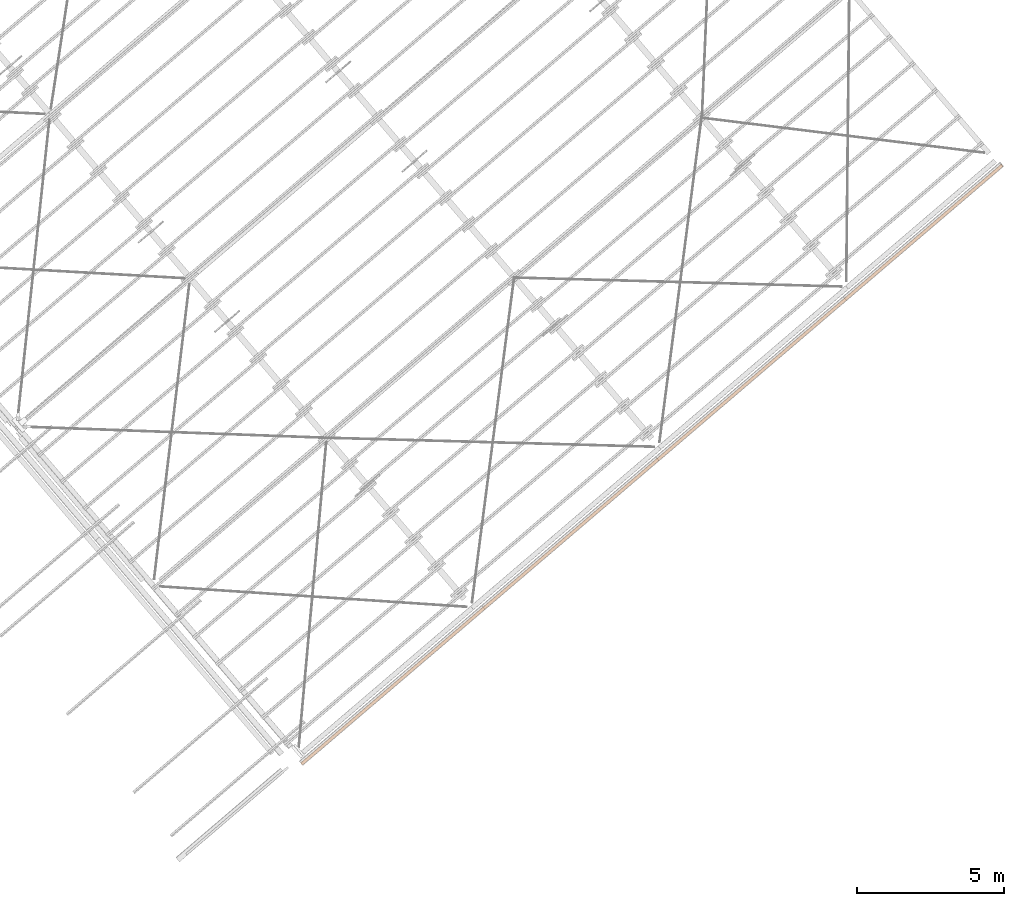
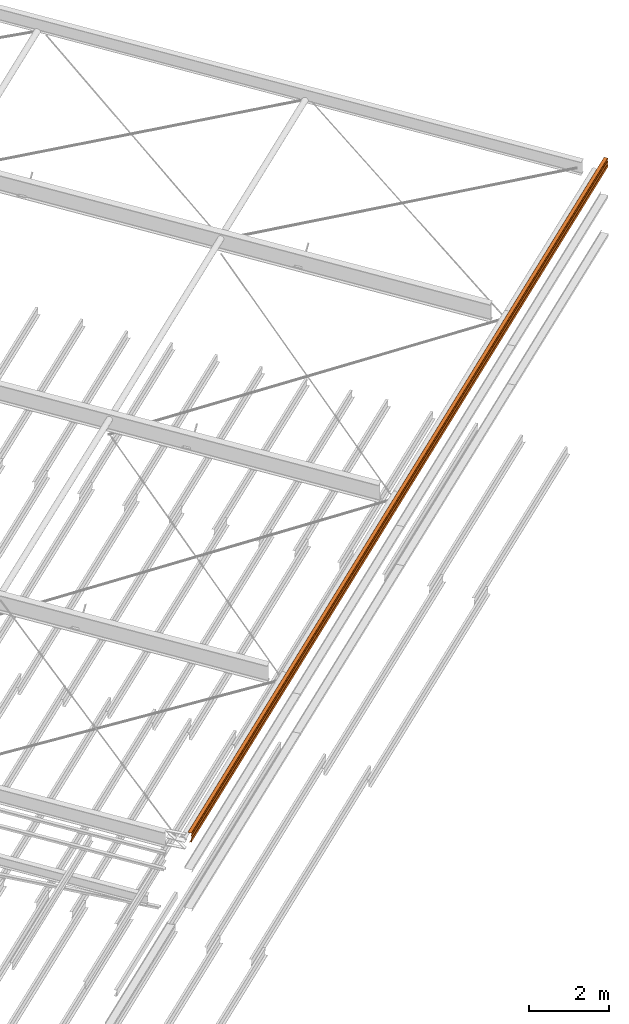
# One storey, part 25 of 25: 1 proxy.
"""IFC2X3 building model written with IfcOpenShell, lengths in millimetres."""

import ifcopenshell
import ifcopenshell.guid

model = None  # the IFC model being written
_history = None  # IfcOwnerHistory: only IFC2X3 demands one
_inside = {}  # id of a spatial element -> (the spatial element, [elements in it])
_under = {}  # id of a project, library or spatial element -> (it, [spatial elements below it])
_declared = {}  # id of a project -> (the project, [libraries it declares])
_typed = {}  # id of a type object -> (the type object, [elements of that type])
_made_of = {}  # id of a material, layer set ... -> (it, [elements and type objects made of it])


def new_model(schema):
    """Start an empty IFC model of exactly this schema.

    Asked for "IFC4X3", IfcOpenShell would pick the latest addendum, in which some entities
    have other attributes; the version numbers below select the first issue.
    IFC2X3 requires an IfcOwnerHistory on every rooted entity: one is made here for all.
    """
    global model, _history
    if schema == "IFC4X3":
        model = ifcopenshell.file(schema_version=(4, 3, 0, 0))
    else:
        model = ifcopenshell.file(schema=schema)
    _inside.clear()
    _under.clear()
    _declared.clear()
    _typed.clear()
    _made_of.clear()
    _history = None
    if model.schema == "IFC2X3":
        org = make("IfcOrganization", Name="unknown")
        user = make(
            "IfcPersonAndOrganization",
            ThePerson=make("IfcPerson", FamilyName="unknown"),
            TheOrganization=org,
        )
        app = make(
            "IfcApplication",
            ApplicationDeveloper=org,
            Version="unknown",
            ApplicationFullName="unknown",
            ApplicationIdentifier="unknown",
        )
        _history = make(
            "IfcOwnerHistory",
            OwningUser=user,
            OwningApplication=app,
            ChangeAction="ADDED",
            CreationDate=0,
        )
    return model


def make(cls, **values):
    """One entity of the class cls with the attributes given. An attribute that is None is left unset."""
    return model.create_entity(
        cls, **{name: value for name, value in values.items() if value is not None}
    )


def entity(cls, *values):
    """Any entity or typed value of the class cls, its attributes in the order of the schema. None: left unset."""
    e = model.create_entity(cls)
    for i, value in enumerate(values):
        if value is not None:
            e[i] = value
    return e


def rooted(cls, **values):
    """An entity with a GlobalId (a new one), such as an element, a storey or a relation."""
    return make(cls, GlobalId=ifcopenshell.guid.new(), OwnerHistory=_history, **values)


def si_unit(unit_type, name, prefix=None):
    """IfcSIUnit, for example si_unit("LENGTHUNIT", "METRE", prefix="MILLI")."""
    return make("IfcSIUnit", UnitType=unit_type, Prefix=prefix, Name=name)


def converted_unit(unit_type, name, factor, base, dimensions=None, offset=None):
    """IfcConversionBasedUnit, such as the inch: factor (a typed value) times the base unit."""
    return make(
        "IfcConversionBasedUnit"
        if offset is None
        else "IfcConversionBasedUnitWithOffset",
        ConversionOffset=offset,
        Dimensions=None
        if dimensions is None
        else entity("IfcDimensionalExponents", *dimensions),
        UnitType=unit_type,
        Name=name,
        ConversionFactor=make(
            "IfcMeasureWithUnit", ValueComponent=factor, UnitComponent=base
        ),
    )


def derived_unit(unit_type, elements):
    """IfcDerivedUnit: a product of units, each with its exponent."""
    return make(
        "IfcDerivedUnit",
        Elements=[
            make("IfcDerivedUnitElement", Unit=unit, Exponent=power)
            for unit, power in elements
        ],
        UnitType=unit_type,
    )


def assignment(units):
    """IfcUnitAssignment: the units of a project."""
    return None if units is None else make("IfcUnitAssignment", Units=units)


def point(xyz):
    """IfcCartesianPoint."""
    return None if xyz is None else make("IfcCartesianPoint", Coordinates=xyz)


def direction(xyz):
    """IfcDirection."""
    return None if xyz is None else make("IfcDirection", DirectionRatios=xyz)


def frame(location, z_axis=None, x_axis=None):
    """IfcAxis2Placement3D, a coordinate frame: its origin and axes. An axis left out is left unset."""
    return make(
        "IfcAxis2Placement3D",
        Location=point(location),
        Axis=direction(z_axis),
        RefDirection=direction(x_axis),
    )


def frame_2d(location, x_axis=None):
    """IfcAxis2Placement2D, a coordinate frame in the plane: its origin and x axis."""
    return make(
        "IfcAxis2Placement2D", Location=point(location), RefDirection=direction(x_axis)
    )


def origin():
    """The frame at (0, 0, 0) with its axes left unset."""
    return frame((0.0, 0.0, 0.0))


def place(relative_to, where):
    """IfcLocalPlacement: puts the frame where relative to a parent placement (None: the world)."""
    return make(
        "IfcLocalPlacement", PlacementRelTo=relative_to, RelativePlacement=where
    )


def context(
    kind, dimensions, precision=None, world=None, true_north=None, identifier=None
):
    """IfcGeometricRepresentationContext, for example the 3D "Model" context."""
    return make(
        "IfcGeometricRepresentationContext",
        ContextIdentifier=identifier,
        ContextType=kind,
        CoordinateSpaceDimension=dimensions,
        Precision=precision,
        WorldCoordinateSystem=world,
        TrueNorth=true_north,
    )


def subcontext(parent, identifier, kind, view, scale=None):
    """IfcGeometricRepresentationSubContext, for example "Body" below "Model"."""
    return make(
        "IfcGeometricRepresentationSubContext",
        ContextIdentifier=identifier,
        ContextType=kind,
        ParentContext=parent,
        TargetScale=scale,
        TargetView=view,
    )


def project(units=None, contexts=None):
    """IfcProject with its units and contexts."""
    return rooted(
        "IfcProject",
        Name="project",
        RepresentationContexts=contexts,
        UnitsInContext=assignment(units),
    )


def spatial(cls, under=None, at=None, **own):
    """A site, building, storey or space (cls), placed at a placement, below another one or the project."""
    s = rooted(cls, ObjectPlacement=at, **own)
    if under is not None:
        _under.setdefault(under.id(), (under, []))[1].append(s)
    return s


def polyline(points):
    """IfcPolyline through the points."""
    return make("IfcPolyline", Points=[point(p) for p in points])


def circle_curve(where, radius):
    """IfcCircle in the frame where."""
    return make("IfcCircle", Position=where, Radius=radius)


def parameter(value):
    """IfcParameterValue: where a trimmed curve begins or ends, as a parameter of its basis curve."""
    return model.create_entity("IfcParameterValue", value)


def trimmed(basis, trim1, trim2, sense, master):
    """IfcTrimmedCurve: the piece of a basis curve between two trims."""
    return make(
        "IfcTrimmedCurve",
        BasisCurve=basis,
        Trim1=trim1,
        Trim2=trim2,
        SenseAgreement=sense,
        MasterRepresentation=master,
    )


def segment(curve, same_sense, transition):
    """IfcCompositeCurveSegment."""
    return make(
        "IfcCompositeCurveSegment",
        Transition=transition,
        SameSense=same_sense,
        ParentCurve=curve,
    )


def composite_curve(segments, self_intersect=None):
    """IfcCompositeCurve: segments joined end to end."""
    return make("IfcCompositeCurve", Segments=segments, SelfIntersect=self_intersect)


def outline(outer, holes=None, kind="AREA"):
    """IfcArbitraryClosedProfileDef: a profile drawn as a closed curve; with holes, ...WithVoids."""
    if holes is None:
        return make("IfcArbitraryClosedProfileDef", ProfileType=kind, OuterCurve=outer)
    return make(
        "IfcArbitraryProfileDefWithVoids",
        ProfileType=kind,
        OuterCurve=outer,
        InnerCurves=holes,
    )


def extrude(swept, where, along, depth):
    """IfcExtrudedAreaSolid: the profile swept, set in the frame where, extruded along a direction by depth."""
    return make(
        "IfcExtrudedAreaSolid",
        SweptArea=swept,
        Position=where,
        ExtrudedDirection=direction(along),
        Depth=depth,
    )


def shape(context_of_items, identifier, shape_type, items):
    """IfcShapeRepresentation: the items that make up one representation, for example the "Body"."""
    return make(
        "IfcShapeRepresentation",
        ContextOfItems=context_of_items,
        RepresentationIdentifier=identifier,
        RepresentationType=shape_type,
        Items=items,
    )


def source(mapping_origin, context_of_items, identifier, shape_type, items):
    """IfcRepresentationMap: a shape defined once, which mapped items show again and again."""
    return make(
        "IfcRepresentationMap",
        MappingOrigin=mapping_origin,
        MappedRepresentation=shape(context_of_items, identifier, shape_type, items),
    )


def transform(
    local_origin,
    x_axis=None,
    y_axis=None,
    z_axis=None,
    scale=None,
    scale2=None,
    scale3=None,
    uniform=True,
):
    """IfcCartesianTransformationOperator3D, or its non-uniform kind. x_axis, y_axis, z_axis: its Axis1, 2, 3."""
    if uniform:
        return make(
            "IfcCartesianTransformationOperator3D",
            Axis1=direction(x_axis),
            Axis2=direction(y_axis),
            LocalOrigin=point(local_origin),
            Scale=scale,
            Axis3=direction(z_axis),
        )
    return make(
        "IfcCartesianTransformationOperator3DnonUniform",
        Axis1=direction(x_axis),
        Axis2=direction(y_axis),
        LocalOrigin=point(local_origin),
        Scale=scale,
        Axis3=direction(z_axis),
        Scale2=scale2,
        Scale3=scale3,
    )


def mapped(mapping_source, mapping_target):
    """IfcMappedItem: shows the shape of a source again, moved by a transform."""
    return make(
        "IfcMappedItem", MappingSource=mapping_source, MappingTarget=mapping_target
    )


def material(Name=None, Category=None):
    """IfcMaterial."""
    return make("IfcMaterial", Name=Name, Category=Category)


def made_of(thing, what):
    """Note that an element or type object is made of a material, layer set ...; save() writes the relation."""
    if what is not None:
        _made_of.setdefault(what.id(), (what, []))[1].append(thing)
    return thing


def type_object(cls, material=None, **own):
    """A type object (cls), such as IfcWallType, which elements share."""
    return made_of(rooted(cls, **own), material)


def type_shapes(of_type, sources):
    """Give a type object the sources (RepresentationMaps) that its elements show as mapped items."""
    of_type.RepresentationMaps = sources


def element(
    cls,
    number,
    at=None,
    inside=None,
    cuts=None,
    type_object=None,
    material=None,
    context=None,
    identifier="Body",
    shape_type=None,
    held_by="IfcProductDefinitionShape",
    body=None,
    shapes=None,
    **own,
):
    """One element of the class cls, such as IfcWall. Its Tag is "e" and its number.

    at: its placement. inside: the storey or other place that contains it. cuts: it is an
    opening in that element (IfcRelVoidsElement). A single representation is given by context,
    identifier, shape_type and body (its items); several are given by shapes. held_by: the class
    of the entity that holds the representations. save() writes the other relations.
    """
    e = rooted(cls, Tag="e%d" % number, ObjectPlacement=at, **own)
    if body is not None:
        shapes = [shape(context, identifier, shape_type, body)]
    if shapes is not None:
        e.Representation = make(held_by, Representations=shapes)
    if inside is not None:
        _inside.setdefault(inside.id(), (inside, []))[1].append(e)
    if cuts is not None:
        rooted(
            "IfcRelVoidsElement", RelatingBuildingElement=cuts, RelatedOpeningElement=e
        )
    if type_object is not None:
        _typed.setdefault(type_object.id(), (type_object, []))[1].append(e)
    return made_of(e, material)


def aggregate(whole, parts):
    """IfcRelAggregates: a whole, such as a stair, and the parts it consists of."""
    return rooted("IfcRelAggregates", RelatingObject=whole, RelatedObjects=parts)


def save(model, path):
    """Write the relations noted so far, then the file.

    IfcRelAggregates (storeys below a building ...), IfcRelContainedInSpatialStructure (elements
    in a storey), IfcRelDefinesByType, IfcRelAssociatesMaterial and IfcRelDeclares: one each for
    every whole, place, type object, material and project.
    """
    for whole, parts in _under.values():
        aggregate(whole, parts)
    for where, things in _inside.values():
        rooted(
            "IfcRelContainedInSpatialStructure",
            RelatedElements=things,
            RelatingStructure=where,
        )
    for kind, things in _typed.values():
        rooted("IfcRelDefinesByType", RelatedObjects=things, RelatingType=kind)
    for what, things in _made_of.values():
        rooted("IfcRelAssociatesMaterial", RelatedObjects=things, RelatingMaterial=what)
    for by, libraries in _declared.values():
        rooted("IfcRelDeclares", RelatingContext=by, RelatedDefinitions=libraries)
    model.write(path)


model = new_model("IFC2X3")

# Units and contexts
model_context = context("Model", 3, precision=0.01, world=origin(), true_north=direction((6.123031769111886e-17, 1.0)))
body_context = subcontext(model_context, "Body", "Model", "MODEL_VIEW")
ifc_project = project(units=[si_unit("LENGTHUNIT", "METRE", prefix="MILLI"), si_unit("AREAUNIT", "SQUARE_METRE"), si_unit("VOLUMEUNIT", "CUBIC_METRE"), converted_unit("PLANEANGLEUNIT", "DEGREE", entity("IfcRatioMeasure", 0.017453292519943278), si_unit("PLANEANGLEUNIT", "RADIAN"), dimensions=[0, 0, 0, 0, 0, 0, 0]), si_unit("MASSUNIT", "GRAM", prefix="KILO"), derived_unit("MASSDENSITYUNIT", [(si_unit("MASSUNIT", "GRAM", prefix="KILO"), 1), (si_unit("LENGTHUNIT", "METRE"), -3)]), derived_unit("MOMENTOFINERTIAUNIT", [(si_unit("LENGTHUNIT", "METRE"), 4)]), si_unit("TIMEUNIT", "SECOND"), si_unit("FREQUENCYUNIT", "HERTZ"), si_unit("THERMODYNAMICTEMPERATUREUNIT", "DEGREE_CELSIUS"), derived_unit("THERMALTRANSMITTANCEUNIT", [(si_unit("MASSUNIT", "GRAM", prefix="KILO"), 1), (si_unit("THERMODYNAMICTEMPERATUREUNIT", "KELVIN"), -1), (si_unit("TIMEUNIT", "SECOND"), -3)]), derived_unit("VOLUMETRICFLOWRATEUNIT", [(si_unit("LENGTHUNIT", "METRE"), 3), (si_unit("TIMEUNIT", "SECOND"), -1)]), derived_unit("MASSFLOWRATEUNIT", [(si_unit("MASSUNIT", "GRAM", prefix="KILO"), 1), (si_unit("TIMEUNIT", "SECOND"), -1)]), derived_unit("ROTATIONALFREQUENCYUNIT", [(si_unit("TIMEUNIT", "SECOND"), -1)]), si_unit("ELECTRICCURRENTUNIT", "AMPERE"), si_unit("ELECTRICVOLTAGEUNIT", "VOLT"), si_unit("POWERUNIT", "WATT"), si_unit("FORCEUNIT", "NEWTON", prefix="KILO"), si_unit("ILLUMINANCEUNIT", "LUX"), si_unit("LUMINOUSFLUXUNIT", "LUMEN"), si_unit("LUMINOUSINTENSITYUNIT", "CANDELA"), derived_unit("USERDEFINED", [(si_unit("MASSUNIT", "GRAM", prefix="KILO"), -1), (si_unit("LENGTHUNIT", "METRE"), -2), (si_unit("TIMEUNIT", "SECOND"), 3), (si_unit("LUMINOUSFLUXUNIT", "LUMEN"), 1)]), derived_unit("SOUNDPOWERUNIT", [(si_unit("MASSUNIT", "GRAM", prefix="KILO"), 1), (si_unit("LENGTHUNIT", "METRE"), 2), (si_unit("TIMEUNIT", "SECOND"), -3)]), derived_unit("LINEARVELOCITYUNIT", [(si_unit("LENGTHUNIT", "METRE"), 1), (si_unit("TIMEUNIT", "SECOND"), -1)]), si_unit("PRESSUREUNIT", "PASCAL"), derived_unit("USERDEFINED", [(si_unit("LENGTHUNIT", "METRE"), -2), (si_unit("MASSUNIT", "GRAM", prefix="KILO"), 1), (si_unit("TIMEUNIT", "SECOND"), -2)]), derived_unit("LINEARFORCEUNIT", [(si_unit("MASSUNIT", "GRAM", prefix="KILO"), 1), (si_unit("LENGTHUNIT", "METRE"), 1), (si_unit("TIMEUNIT", "SECOND"), -2), (si_unit("LENGTHUNIT", "METRE"), -1)]), derived_unit("PLANARFORCEUNIT", [(si_unit("MASSUNIT", "GRAM", prefix="KILO"), 1), (si_unit("LENGTHUNIT", "METRE"), 1), (si_unit("TIMEUNIT", "SECOND"), -2), (si_unit("LENGTHUNIT", "METRE"), -2)])], contexts=[model_context])

# Site, building, storey
site_placement = place(None, frame((962.4174930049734, -6014.433753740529, 0.0), z_axis=(0.0, 0.0, 1.0), x_axis=(0.7601792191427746, 0.649713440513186, 0.0)))
site = spatial("IfcSite", under=ifc_project, at=site_placement, Name="Default", CompositionType="ELEMENT")
building_placement = place(site_placement, origin())
building = spatial("IfcBuilding", under=site, at=building_placement, CompositionType="ELEMENT")
storey_placement = place(building_placement, frame((0.0, 0.0, 9200.0)))
storey = spatial("IfcBuildingStorey", under=building, at=storey_placement, Name="TOP OF CEILING", CompositionType="ELEMENT", Elevation=9200.000000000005)

# Proxy
ifc_material = material(Name="<Unnamed>")
building_element_proxy_type = type_object("IfcBuildingElementProxyType", Name="Fascia Purlin:Fascia Purlin", PredefinedType="NOTDEFINED", material=ifc_material)
shared_shape = source(origin(), body_context, "Body", "SweptSolid", [
    extrude(outline(composite_curve([segment(polyline([(19.126736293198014, 127.66042923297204), (19.12673629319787, 81.86718507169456)]), True, "CONTINUOUS"), segment(trimmed(circle_curve(frame_2d((17.12673629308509, 81.86718507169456), x_axis=(1.0, 0.0)), 2.000000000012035), [parameter(310.00000000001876)], [parameter(359.9999999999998)], True, "PARAMETER"), False, "CONTINUOUS"), segment(polyline([(18.412311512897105, 80.33509618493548), (12.9665161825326, 75.76553133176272)]), True, "CONTINUOUS"), segment(trimmed(circle_curve(frame_2d((14.252091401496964, 74.23344244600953), x_axis=(1.0, 0.0)), 2.000000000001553), [parameter(129.99999999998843)], [parameter(180.0)], True, "PARAMETER"), True, "CONTINUOUS"), segment(polyline([(12.252091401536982, 74.23344244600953), (12.252091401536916, 53.63569706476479)]), True, "CONTINUOUS"), segment(trimmed(circle_curve(frame_2d((14.25209140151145, 53.635697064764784), x_axis=(1.0, 0.0)), 1.999999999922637), [parameter(180.0)], [parameter(230.00000000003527)], True, "PARAMETER"), True, "CONTINUOUS"), segment(polyline([(12.966516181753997, 52.103608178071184), (18.412311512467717, 47.534043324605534)]), True, "CONTINUOUS"), segment(trimmed(circle_curve(frame_2d((17.12673629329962, 46.00195443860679), x_axis=(1.0, 0.0)), 2.000000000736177), [parameter(359.9999999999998)], [parameter(50.000000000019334)], True, "PARAMETER"), False, "CONTINUOUS"), segment(polyline([(19.126736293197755, 46.00195443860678), (19.12673629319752, -28.13281492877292)]), True, "CONTINUOUS"), segment(trimmed(circle_curve(frame_2d((17.126736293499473, -28.132814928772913), x_axis=(1.0, 0.0)), 2.000000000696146), [parameter(309.9999999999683)], [parameter(359.9999999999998)], True, "PARAMETER"), False, "CONTINUOUS"), segment(polyline([(18.41231151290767, -29.664903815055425), (12.966516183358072, -34.23446866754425)]), True, "CONTINUOUS"), segment(trimmed(circle_curve(frame_2d((14.252091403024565, -35.766557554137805), x_axis=(1.0, 0.0)), 2.00000000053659), [parameter(129.9999999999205)], [parameter(180.0)], True, "PARAMETER"), True, "CONTINUOUS"), segment(polyline([(12.252091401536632, -35.7665575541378), (12.252091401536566, -56.36430318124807)]), True, "CONTINUOUS"), segment(trimmed(circle_curve(frame_2d((14.252091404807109, -56.364303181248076), x_axis=(1.0, 0.0)), 2.00000000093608), [parameter(180.0)], [parameter(229.99999999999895)], True, "PARAMETER"), True, "CONTINUOUS"), segment(polyline([(12.966516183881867, -57.89639206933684), (18.412311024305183, -62.46595651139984)]), True, "CONTINUOUS"), segment(trimmed(circle_curve(frame_2d((17.126735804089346, -63.998045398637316), x_axis=(1.0, 0.0)), 1.9999999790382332), [parameter(4.019810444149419e-07)], [parameter(50.000000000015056)], True, "PARAMETER"), False, "CONTINUOUS"), segment(polyline([(19.126736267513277, -63.99804538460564), (19.126736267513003, -150.3155038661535)]), True, "CONTINUOUS"), segment(trimmed(circle_curve(frame_2d((17.126736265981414, -150.3155038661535), x_axis=(1.0, 0.0)), 1.9999999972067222), [parameter(265.00000000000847)], [parameter(359.9999999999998)], True, "PARAMETER"), False, "CONTINUOUS"), segment(polyline([(16.952424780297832, -152.3078932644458), (-28.698952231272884, -148.31391530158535)]), True, "CONTINUOUS"), segment(trimmed(circle_curve(frame_2d((-28.87326371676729, -150.30630469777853), x_axis=(1.0, 0.0)), 2.000000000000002), [parameter(85.0000000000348)], [parameter(180.0)], True, "PARAMETER"), True, "CONTINUOUS"), segment(polyline([(-30.873263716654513, -150.30630469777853), (-30.873263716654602, -178.123687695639)]), True, "CONTINUOUS"), segment(polyline([(-30.873263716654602, -178.123687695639), (-29.873263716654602, -178.123687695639)]), True, "CONTINUOUS"), segment(polyline([(-29.873263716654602, -178.123687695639), (-29.873263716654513, -150.30630469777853)]), True, "CONTINUOUS"), segment(trimmed(circle_curve(frame_2d((-28.87326371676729, -150.30630469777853), x_axis=(1.0, 0.0)), 0.9999999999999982), [parameter(85.00000000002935)], [parameter(180.0)], True, "PARAMETER"), False, "CONTINUOUS"), segment(polyline([(-28.786107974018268, -149.31010999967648), (16.865269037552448, -153.30408796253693)]), True, "CONTINUOUS"), segment(trimmed(circle_curve(frame_2d((17.126736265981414, -150.3155038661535), x_axis=(1.0, 0.0)), 2.999999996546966), [parameter(264.9999999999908)], [parameter(359.9999999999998)], True, "PARAMETER"), True, "CONTINUOUS"), segment(polyline([(20.126736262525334, -150.3155038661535), (20.126736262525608, -63.99804578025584)]), True, "CONTINUOUS"), segment(trimmed(circle_curve(frame_2d((17.126736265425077, -63.998045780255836), x_axis=(1.0, 0.0)), 2.9999999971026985), [parameter(359.9999999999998)], [parameter(50.00000000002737)], True, "PARAMETER"), True, "CONTINUOUS"), segment(polyline([(19.05509909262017, -61.69991245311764), (13.609303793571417, -57.130347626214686)]), True, "CONTINUOUS"), segment(trimmed(circle_curve(frame_2d((14.252091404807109, -56.364303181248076), x_axis=(1.0, 0.0)), 1.0000000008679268), [parameter(180.0)], [parameter(230.00000000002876)], True, "PARAMETER"), False, "CONTINUOUS"), segment(polyline([(13.252091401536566, -56.364303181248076), (13.252091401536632, -35.766557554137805)]), True, "CONTINUOUS"), segment(trimmed(circle_curve(frame_2d((14.252091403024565, -35.766557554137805), x_axis=(1.0, 0.0)), 0.999999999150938), [parameter(130.00000000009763)], [parameter(180.0)], True, "PARAMETER"), False, "CONTINUOUS"), segment(polyline([(13.609303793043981, -35.00051311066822), (19.055099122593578, -30.430948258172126)]), True, "CONTINUOUS"), segment(trimmed(circle_curve(frame_2d((17.126736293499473, -28.132814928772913), x_axis=(1.0, 0.0)), 3.000000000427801), [parameter(310.0000000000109)], [parameter(359.9999999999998)], True, "PARAMETER"), True, "CONTINUOUS"), segment(polyline([(20.12673629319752, -28.132814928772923), (20.126736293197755, 46.00195443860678)]), True, "CONTINUOUS"), segment(trimmed(circle_curve(frame_2d((17.12673629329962, 46.00195443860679), x_axis=(1.0, 0.0)), 3.000000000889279), [parameter(359.9999999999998)], [parameter(50.00000000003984)], True, "PARAMETER"), True, "CONTINUOUS"), segment(polyline([(19.05509912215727, 48.30008776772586), (13.60930379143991, 52.86965262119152)]), True, "CONTINUOUS"), segment(trimmed(circle_curve(frame_2d((14.25209140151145, 53.635697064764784), x_axis=(1.0, 0.0)), 0.9999999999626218), [parameter(180.0)], [parameter(229.99999999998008)], True, "PARAMETER"), False, "CONTINUOUS"), segment(polyline([(13.252091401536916, 53.635697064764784), (13.252091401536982, 74.23344244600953)]), True, "CONTINUOUS"), segment(trimmed(circle_curve(frame_2d((14.252091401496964, 74.23344244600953), x_axis=(1.0, 0.0)), 0.9999999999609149), [parameter(130.0000000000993)], [parameter(180.0)], True, "PARAMETER"), False, "CONTINUOUS"), segment(polyline([(13.609303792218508, 74.99948688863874), (19.055099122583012, 79.56905174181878)]), True, "CONTINUOUS"), segment(trimmed(circle_curve(frame_2d((17.12673629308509, 81.86718507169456), x_axis=(1.0, 0.0)), 3.0000000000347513), [parameter(310.0000000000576)], [parameter(359.9999999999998)], True, "PARAMETER"), True, "CONTINUOUS"), segment(polyline([(20.12673629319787, 81.86718507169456), (20.126736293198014, 127.66042923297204)]), True, "CONTINUOUS"), segment(trimmed(circle_curve(frame_2d((17.126736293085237, 127.66042923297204), x_axis=(1.0, 0.0)), 3.0000000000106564), [parameter(359.9999999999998)], [parameter(64.92423591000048)], True, "PARAMETER"), True, "CONTINUOUS"), segment(polyline([(18.398185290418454, 130.37767369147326), (-74.37994155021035, 136.86535231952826)]), True, "CONTINUOUS"), segment(trimmed(circle_curve(frame_2d((-74.67974027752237, 132.57803077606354), x_axis=(-1.0, 0.0)), 4.2977907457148), [parameter(266.00000000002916)], [parameter(334.99999999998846)], True, "PARAMETER"), True, "CONTINUOUS"), segment(polyline([(-78.57486149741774, 134.3943556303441), (-90.29554134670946, 109.25927658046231)]), True, "CONTINUOUS"), segment(polyline([(-90.29554134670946, 109.25927658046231), (-89.38923355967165, 108.83665831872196)]), True, "CONTINUOUS"), segment(polyline([(-89.38923355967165, 108.83665831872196), (-77.43794122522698, 134.46628743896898)]), True, "CONTINUOUS"), segment(trimmed(circle_curve(frame_2d((-75.16870260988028, 133.40812409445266), x_axis=(-1.0, 0.0)), 2.5038277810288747), [parameter(266.0000000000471)], [parameter(334.99999999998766)], True, "PARAMETER"), False, "CONTINUOUS"), segment(polyline([(-74.99404441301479, 135.9058526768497), (18.123311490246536, 129.3944528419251)]), True, "CONTINUOUS"), segment(trimmed(circle_curve(frame_2d((17.126736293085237, 127.66042923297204), x_axis=(1.0, 0.0)), 2.0000000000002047), [parameter(359.9999999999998)], [parameter(60.11322704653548)], True, "PARAMETER"), False, "CONTINUOUS")], self_intersect=False)), frame((154466.76020470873, -26289.29328925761, 11418.933441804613), z_axis=(-1.0, 0.0, 0.0), x_axis=(0.0, -1.0, 0.0)), (0.0, 0.0, -1.0), 31400.0),
])
type_shapes(building_element_proxy_type, [shared_shape])
proxy_placement = place(storey_placement, frame((0.0, 0.0, -9200.0)))
element("IfcBuildingElementProxy", 1, at=proxy_placement, inside=storey, type_object=building_element_proxy_type, material=ifc_material, Name="Fascia Purlin:Fascia Purlin", ObjectType="Fascia Purlin:Fascia Purlin", context=body_context, shape_type="MappedRepresentation", body=[
    mapped(shared_shape, transform((0.0, 0.0, 0.0), scale=1.0)),
])

save(model, "model.ifc")
